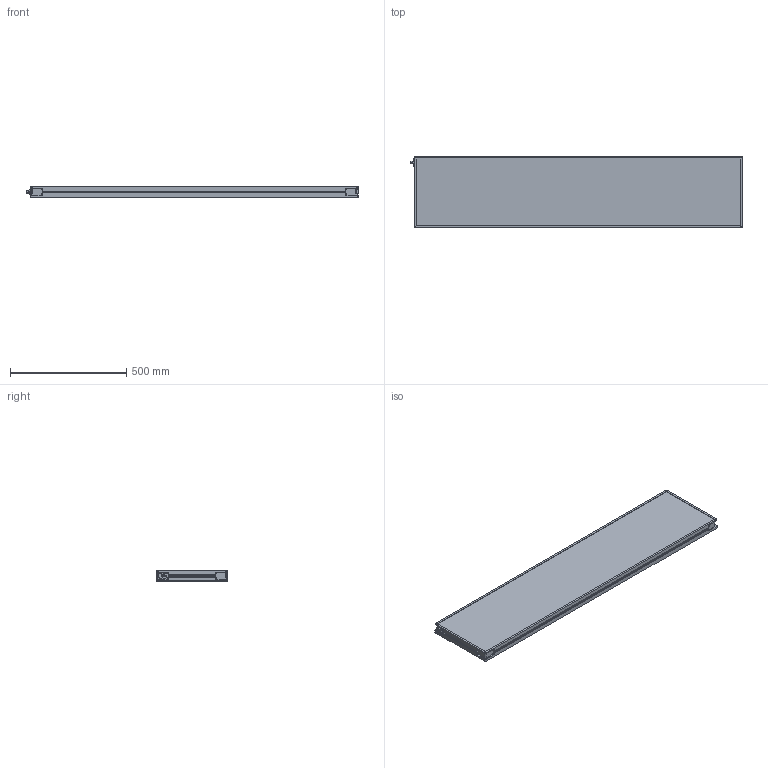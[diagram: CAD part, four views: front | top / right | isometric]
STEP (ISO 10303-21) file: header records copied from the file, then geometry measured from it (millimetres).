
FILE_DESCRIPTION (( 'STEP AP214' ), '1' );
FILE_NAME ('MBACK-xxxx-xxx-M1_CLIENT300x1400.STEP', '2022-03-31T16:00:33', ( '' ), ( '' ), 'SwSTEP 2.0', 'SolidWorks 2020', '' );
FILE_SCHEMA (( 'AUTOMOTIVE_DESIGN' ));
Length unit declared in the file: millimetre
Products named in the file (1): MBACK-xxxx-xxx-M1_CLIENT300x1400
Bounding box: 1425.9 x 308 x 45.5 mm (x, y, z)
Volume: 18004855.9 mm3; surface area: 1095209.9 mm2
Topology: 1 solids, 1 shells, 442 faces, 1144 edges, 760 vertices
Faces by surface type: plane 249, cylinder 105, bspline 80, cone 8
Entity records: 17236 total; most frequent: CARTESIAN_POINT 6699, ORIENTED_EDGE 2288, DIRECTION 1936, EDGE_CURVE 1144, VERTEX_POINT 760, VECTOR 758, LINE 758, AXIS2_PLACEMENT_3D 589
